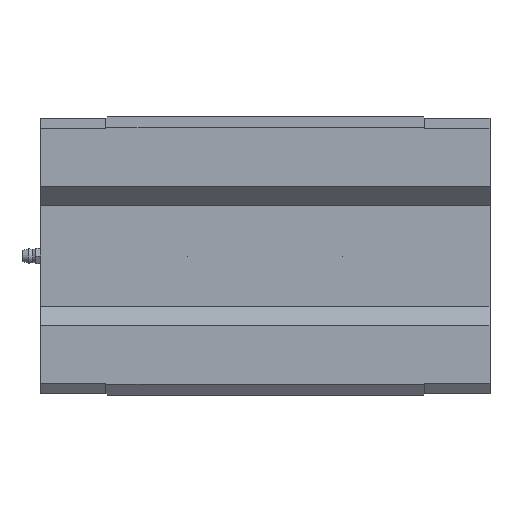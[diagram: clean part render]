
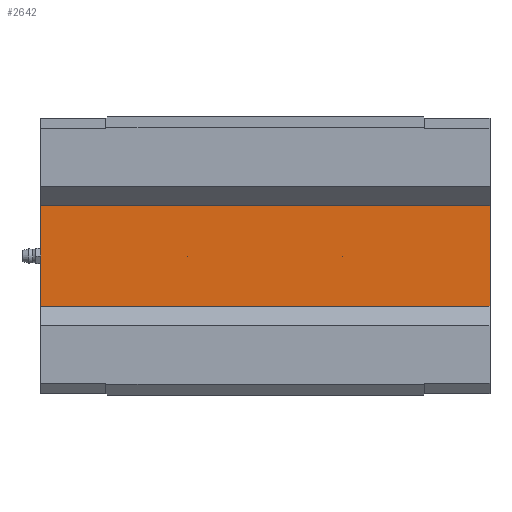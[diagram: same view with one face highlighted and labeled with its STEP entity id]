
A CAD part, front view. The second image highlights one B-rep face of the part: STEP entity #2642.
In plain terms, the highlighted planar face has unit normal (0, -1, 0).
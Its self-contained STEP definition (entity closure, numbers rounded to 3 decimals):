
#741=ORIENTED_EDGE('',*,*,#1038,.F.);
#742=ORIENTED_EDGE('',*,*,#1211,.F.);
#743=ORIENTED_EDGE('',*,*,#981,.T.);
#744=ORIENTED_EDGE('',*,*,#1212,.T.);
#981=EDGE_CURVE('',#1333,#1332,#1581,.T.);
#1038=EDGE_CURVE('',#1386,#1387,#1617,.T.);
#1211=EDGE_CURVE('',#1333,#1386,#1763,.T.);
#1212=EDGE_CURVE('',#1332,#1387,#1764,.T.);
#1332=VERTEX_POINT('',#3883);
#1333=VERTEX_POINT('',#3885);
#1386=VERTEX_POINT('',#3995);
#1387=VERTEX_POINT('',#3997);
#1581=LINE('',#3884,#1799);
#1617=LINE('',#3996,#1835);
#1763=LINE('',#4343,#1981);
#1764=LINE('',#4345,#1982);
#1799=VECTOR('',#3084,1000.);
#1835=VECTOR('',#3164,1000.);
#1981=VECTOR('',#3524,1000.);
#1982=VECTOR('',#3527,1000.);
#2095=EDGE_LOOP('',(#741,#742,#743,#744));
#2327=FACE_BOUND('',#2095,.T.);
#2529=PLANE('',#2894);
#2642=ADVANCED_FACE('',(#2327),#2529,.T.);
#2894=AXIS2_PLACEMENT_3D('',#4344,#3525,#3526);
#3084=DIRECTION('',(0.,0.,1.));
#3164=DIRECTION('',(0.,0.,1.));
#3524=DIRECTION('',(-1.,0.,0.));
#3525=DIRECTION('',(0.,-1.,0.));
#3526=DIRECTION('',(0.,0.,-1.));
#3527=DIRECTION('',(-1.,0.,0.));
#3883=CARTESIAN_POINT('',(101.5,45.7,30.47));
#3884=CARTESIAN_POINT('',(101.5,45.7,-30.47));
#3885=CARTESIAN_POINT('',(101.5,45.7,-30.47));
#3995=CARTESIAN_POINT('',(-101.5,45.7,-30.47));
#3996=CARTESIAN_POINT('',(-101.5,45.7,-30.47));
#3997=CARTESIAN_POINT('',(-101.5,45.7,30.47));
#4343=CARTESIAN_POINT('',(101.5,45.7,-30.47));
#4344=CARTESIAN_POINT('',(101.5,45.7,-30.47));
#4345=CARTESIAN_POINT('',(101.5,45.7,30.47));
